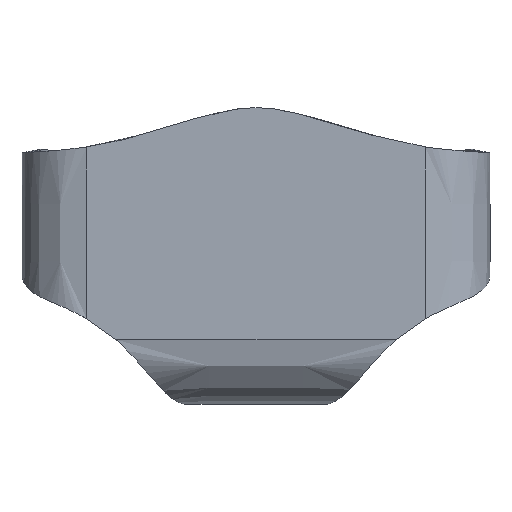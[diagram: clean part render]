
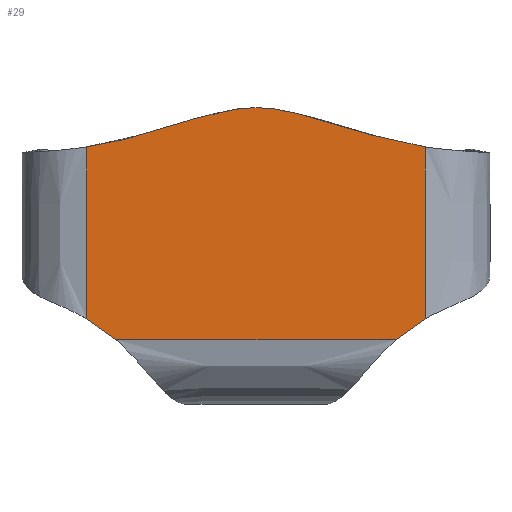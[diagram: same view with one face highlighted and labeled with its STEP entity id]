
A CAD part, top view. The second image highlights one B-rep face of the part: STEP entity #29.
In plain terms, the highlighted planar face has unit normal (0, 0, 1).
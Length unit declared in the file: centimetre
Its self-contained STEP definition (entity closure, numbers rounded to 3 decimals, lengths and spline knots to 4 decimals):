
#29=ADVANCED_FACE($,(#49),#235,.T.);
#49=FACE_OUTER_BOUND($,#69,.T.);
#69=EDGE_LOOP($,(#134,#135,#136,#137,#138,#139,#140));
#134=ORIENTED_EDGE($,*,*,#198,.T.);
#135=ORIENTED_EDGE($,*,*,#162,.F.);
#136=ORIENTED_EDGE($,*,*,#199,.T.);
#137=ORIENTED_EDGE($,*,*,#200,.T.);
#138=ORIENTED_EDGE($,*,*,#186,.F.);
#139=ORIENTED_EDGE($,*,*,#201,.T.);
#140=ORIENTED_EDGE($,*,*,#174,.F.);
#162=EDGE_CURVE($,#206,#207,#253,.T.);
#174=EDGE_CURVE($,#215,#214,#265,.T.);
#186=EDGE_CURVE($,#223,#222,#277,.T.);
#198=EDGE_CURVE($,#215,#207,#289,.T.);
#199=EDGE_CURVE($,#206,#230,#290,.T.);
#200=EDGE_CURVE($,#230,#222,#291,.T.);
#201=EDGE_CURVE($,#223,#214,#292,.T.);
#206=VERTEX_POINT($,#2186);
#207=VERTEX_POINT($,#2187);
#214=VERTEX_POINT($,#2194);
#215=VERTEX_POINT($,#2195);
#222=VERTEX_POINT($,#2202);
#223=VERTEX_POINT($,#2203);
#230=VERTEX_POINT($,#2210);
#235=PLANE($,#384);
#253=B_SPLINE_CURVE_WITH_KNOTS($,3,(#394,#395,#396,#397),.UNSPECIFIED.,.F.,
.F.,(4,4),(0.,42.4519),.UNSPECIFIED.);
#265=B_SPLINE_CURVE_WITH_KNOTS($,3,(#526,#527,#528,#529),.UNSPECIFIED.,.F.,
.F.,(4,4),(0.,69.1892),.UNSPECIFIED.);
#277=B_SPLINE_CURVE_WITH_KNOTS($,3,(#666,#667,#668,#669),.UNSPECIFIED.,.F.,
.F.,(4,4),(-42.4519,0.),.UNSPECIFIED.);
#289=B_SPLINE_CURVE_WITH_KNOTS($,3,(#798,#799,#800,#801),.UNSPECIFIED.,.F.,
.F.,(4,4),(-333.6601,-324.8017),.UNSPECIFIED.);
#290=B_SPLINE_CURVE_WITH_KNOTS($,3,(#802,#803,#804,#805,#806,#807,#808,#809,
#810,#811,#812,#813,#814,#815,#816,#817),.UNSPECIFIED.,.F.,.F.,(4,2,2,2,
2,2,2,4),(-282.3498,-271.2414,-265.6967,-262.927,
-260.1573,-249.0619,-244.8922,-239.3274),
.UNSPECIFIED.);
#291=B_SPLINE_CURVE_WITH_KNOTS($,3,(#818,#819,#820,#821,#822,#823,#824,#825,
#826,#827,#828,#829,#830,#831,#832,#833),.UNSPECIFIED.,.F.,.F.,(4,2,2,2,
2,2,2,4),(-239.3274,-233.7633,-229.5884,-218.4945,
-215.7252,-212.9558,-207.4118,-196.3049),
.UNSPECIFIED.);
#292=B_SPLINE_CURVE_WITH_KNOTS($,3,(#834,#835,#836,#837),.UNSPECIFIED.,.F.,
.F.,(4,4),(-153.853,-144.9946),.UNSPECIFIED.);
#384=AXIS2_PLACEMENT_3D($,#2130,#389,$);
#389=DIRECTION($,(0.,0.,1.));
#394=CARTESIAN_POINT($,(99.7994,63.2877,41.));
#395=CARTESIAN_POINT($,(99.7994,49.1371,41.));
#396=CARTESIAN_POINT($,(99.7994,34.9864,41.));
#397=CARTESIAN_POINT($,(99.7994,20.8358,41.));
#526=CARTESIAN_POINT($,(92.5947,15.7008,41.));
#527=CARTESIAN_POINT($,(69.5317,15.7008,41.));
#528=CARTESIAN_POINT($,(46.4686,15.7008,41.));
#529=CARTESIAN_POINT($,(23.4056,15.7008,41.));
#666=CARTESIAN_POINT($,(16.2008,20.8358,41.));
#667=CARTESIAN_POINT($,(16.2008,34.9864,41.));
#668=CARTESIAN_POINT($,(16.2008,49.1371,41.));
#669=CARTESIAN_POINT($,(16.2008,63.2877,41.));
#798=CARTESIAN_POINT($,(92.5947,15.7008,41.));
#799=CARTESIAN_POINT($,(94.8617,17.6186,41.));
#800=CARTESIAN_POINT($,(97.247,19.3186,41.));
#801=CARTESIAN_POINT($,(99.7994,20.8358,41.));
#802=CARTESIAN_POINT($,(99.7994,63.2877,41.));
#803=CARTESIAN_POINT($,(96.2468,63.8285,41.));
#804=CARTESIAN_POINT($,(92.746,64.5498,41.));
#805=CARTESIAN_POINT($,(87.5327,65.9076,41.));
#806=CARTESIAN_POINT($,(85.8115,66.4037,41.));
#807=CARTESIAN_POINT($,(83.2473,67.2157,41.));
#808=CARTESIAN_POINT($,(82.3987,67.503,41.));
#809=CARTESIAN_POINT($,(80.6953,68.0587,41.));
#810=CARTESIAN_POINT($,(79.8414,68.3295,41.));
#811=CARTESIAN_POINT($,(75.5554,69.6503,41.));
#812=CARTESIAN_POINT($,(72.1002,70.5922,41.));
#813=CARTESIAN_POINT($,(67.2962,71.734,41.));
#814=CARTESIAN_POINT($,(64.6871,72.3322,41.));
#815=CARTESIAN_POINT($,(61.576,72.8525,41.));
#816=CARTESIAN_POINT($,(59.8034,73.0002,41.));
#817=CARTESIAN_POINT($,(58.0001,73.,41.));
#818=CARTESIAN_POINT($,(58.0001,73.,41.));
#819=CARTESIAN_POINT($,(56.1969,73.0004,41.));
#820=CARTESIAN_POINT($,(54.4243,72.8524,41.));
#821=CARTESIAN_POINT($,(51.3114,72.3319,41.));
#822=CARTESIAN_POINT($,(48.7058,71.7345,41.));
#823=CARTESIAN_POINT($,(43.9001,70.5922,41.));
#824=CARTESIAN_POINT($,(40.4449,69.6503,41.));
#825=CARTESIAN_POINT($,(36.1589,68.3295,41.));
#826=CARTESIAN_POINT($,(35.305,68.0587,41.));
#827=CARTESIAN_POINT($,(33.6015,67.503,41.));
#828=CARTESIAN_POINT($,(32.7529,67.2157,41.));
#829=CARTESIAN_POINT($,(30.1887,66.4037,41.));
#830=CARTESIAN_POINT($,(28.4675,65.9076,41.));
#831=CARTESIAN_POINT($,(23.2543,64.5498,41.));
#832=CARTESIAN_POINT($,(19.7535,63.8285,41.));
#833=CARTESIAN_POINT($,(16.2008,63.2877,41.));
#834=CARTESIAN_POINT($,(16.2008,20.8358,41.));
#835=CARTESIAN_POINT($,(18.7533,19.3186,41.));
#836=CARTESIAN_POINT($,(21.1386,17.6186,41.));
#837=CARTESIAN_POINT($,(23.4056,15.7008,41.));
#2130=CARTESIAN_POINT($,(99.8001,73.0001,41.));
#2186=CARTESIAN_POINT($,(99.7994,63.2877,41.));
#2187=CARTESIAN_POINT($,(99.7994,20.8358,41.));
#2194=CARTESIAN_POINT($,(23.4056,15.7008,41.));
#2195=CARTESIAN_POINT($,(92.5947,15.7008,41.));
#2202=CARTESIAN_POINT($,(16.2008,63.2877,41.));
#2203=CARTESIAN_POINT($,(16.2008,20.8358,41.));
#2210=CARTESIAN_POINT($,(58.0001,73.,41.));
